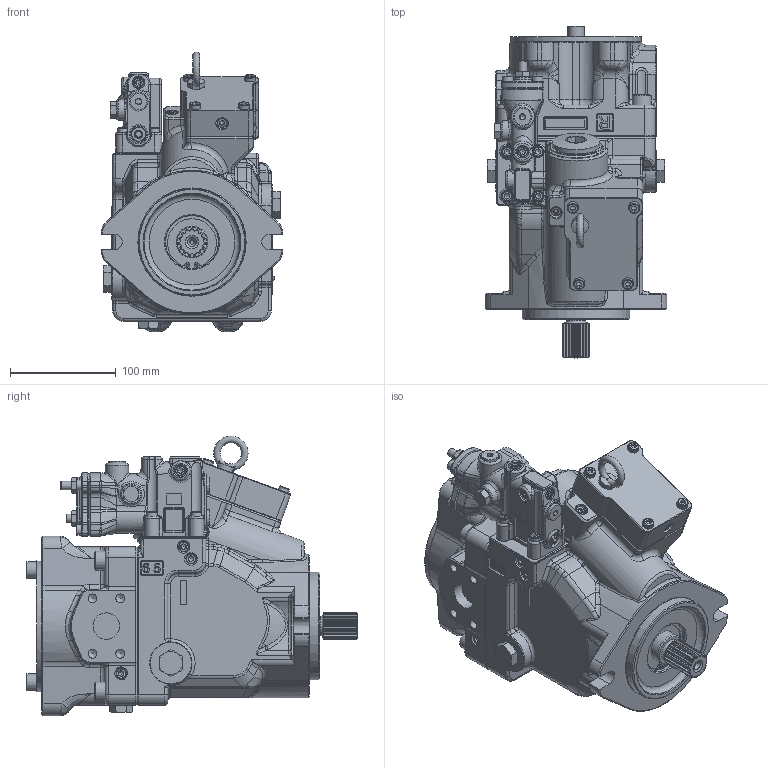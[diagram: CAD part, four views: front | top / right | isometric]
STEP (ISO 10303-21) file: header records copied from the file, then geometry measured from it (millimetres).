
FILE_DESCRIPTION(/* description */ (''),/* implementation_level */ '2;1');
FILE_NAME(/* name */ 'K3VLS65-1NRBBH-L1A00.stp',/* time_stamp */ '2025-09-23T13:58:53+01:00',/* author */ ('jhatcher'),/* organization */ (''),/* preprocessor_version */ 'ST-DEVELOPER v20',/* originating_system */ 'Autodesk Inventor 2024',/* authorisation */ '');
FILE_SCHEMA (('AUTOMOTIVE_DESIGN { 1 0 10303 214 3 1 1 }'));
Products named in the file (1): K3VLS65-1NRBBH-L1A00
Bounding box: 172 x 314 x 264.76 mm (x, y, z)
Volume: 5568282.3 mm3; surface area: 280270.4 mm2
Topology: 1 solids, 1 shells, 3173 faces, 7996 edges, 4902 vertices
Faces by surface type: plane 1282, cylinder 820, bspline 544, cone 352, torus 159, sphere 16
Full cylindrical faces by diameter (mm): 2.5 x2, 4 x3, 8 x2, 8.376 x8, 9.4 x11, 10 x12, 10.106 x4, 11 x12, 12 x11, 16 x5, 18 x8, 18.2 x1, 20 x5, 22 x1, 25 x2, 30 x1, 45 x1, 50 x2, 53 x1, 101.6 x1, 124 x1
Entity records: 111450 total; most frequent: CARTESIAN_POINT 38760, ORIENTED_EDGE 15778, DIRECTION 14111, EDGE_CURVE 7889, AXIS2_PLACEMENT_3D 5150, VERTEX_POINT 4902, LINE 3811, VECTOR 3811
